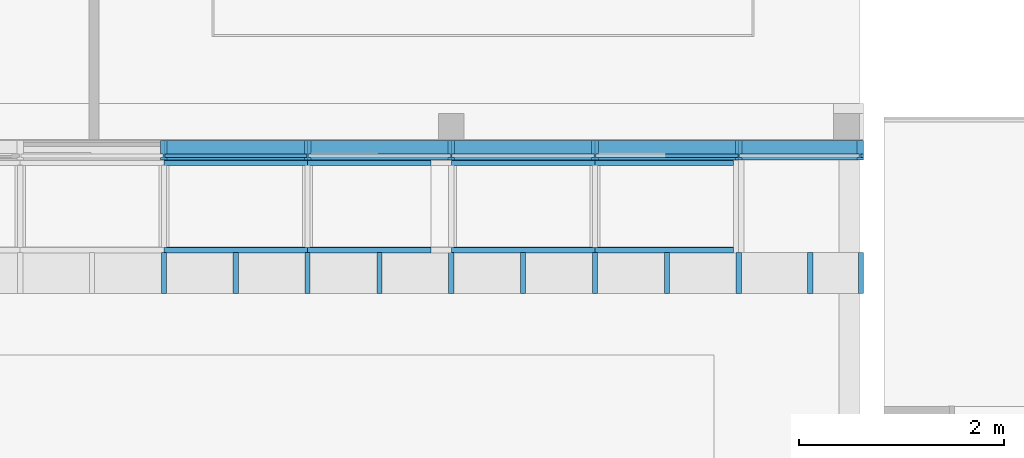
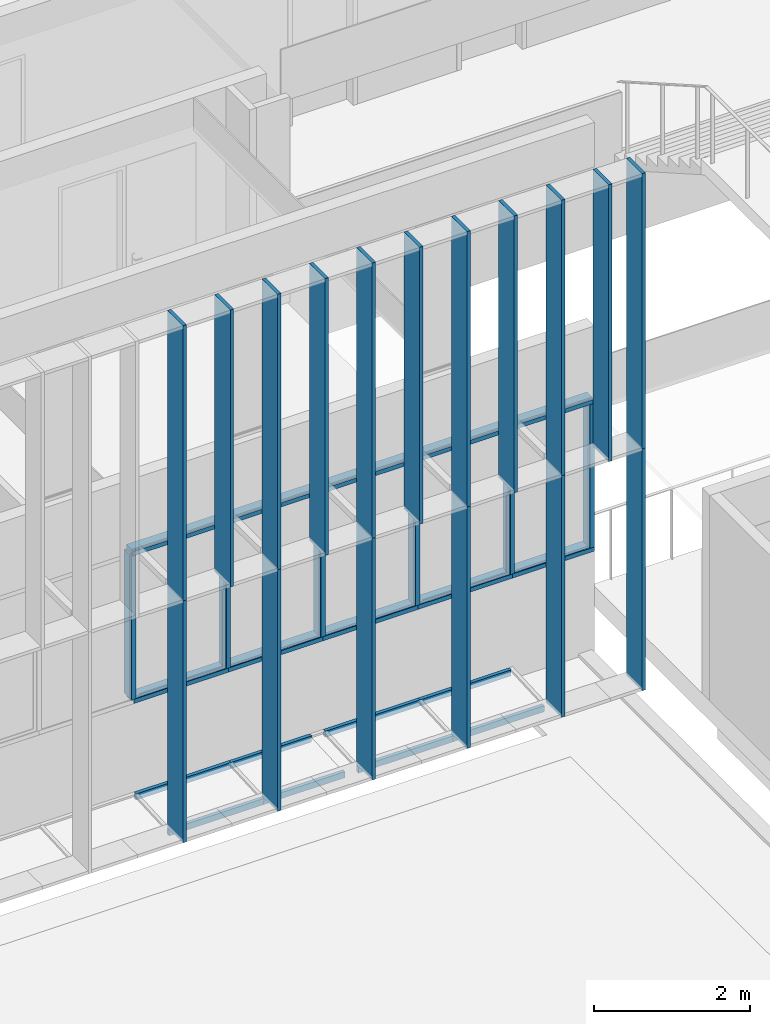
# One storey, part 16 of 106: 41 members, 3 elements without a shape of their own.
"""IFC2X3 building model written with IfcOpenShell, lengths in centimetres."""

from ifc_helpers import new_model, entity, si_unit, converted_unit, derived_unit, direction, frame, origin, origin_2d_with_axis, place, context, subcontext, project, spatial, polyline, rectangle, outline, extrude, source, transform, mapped, material, type_object, type_shapes, element, aggregate, save


model = new_model("IFC2X3")

# Units and contexts
model_context = context("Model", 3, precision=0.001, world=origin(), true_north=direction((6.12303176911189e-17, 1.0)))
body_context = subcontext(model_context, "Body", "Model", "MODEL_VIEW")
ifc_project = project(units=[si_unit("LENGTHUNIT", "METRE", prefix="CENTI"), si_unit("AREAUNIT", "SQUARE_METRE"), si_unit("VOLUMEUNIT", "CUBIC_METRE"), converted_unit("PLANEANGLEUNIT", "DEGREE", entity("IfcRatioMeasure", 0.0174532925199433), si_unit("PLANEANGLEUNIT", "RADIAN"), dimensions=[0, 0, 0, 0, 0, 0, 0]), si_unit("MASSUNIT", "GRAM", prefix="KILO"), derived_unit("MASSDENSITYUNIT", [(si_unit("MASSUNIT", "GRAM", prefix="KILO"), 1), (si_unit("LENGTHUNIT", "METRE"), -3)]), si_unit("TIMEUNIT", "SECOND"), si_unit("FREQUENCYUNIT", "HERTZ"), si_unit("THERMODYNAMICTEMPERATUREUNIT", "DEGREE_CELSIUS"), derived_unit("THERMALTRANSMITTANCEUNIT", [(si_unit("MASSUNIT", "GRAM", prefix="KILO"), 1), (si_unit("THERMODYNAMICTEMPERATUREUNIT", "KELVIN"), -1), (si_unit("TIMEUNIT", "SECOND"), -3)]), derived_unit("VOLUMETRICFLOWRATEUNIT", [(si_unit("LENGTHUNIT", "METRE"), 3), (si_unit("TIMEUNIT", "SECOND"), -1)]), si_unit("ELECTRICCURRENTUNIT", "AMPERE"), si_unit("ELECTRICVOLTAGEUNIT", "VOLT"), si_unit("POWERUNIT", "WATT"), si_unit("FORCEUNIT", "NEWTON", prefix="KILO"), si_unit("ILLUMINANCEUNIT", "LUX"), si_unit("LUMINOUSFLUXUNIT", "LUMEN"), si_unit("LUMINOUSINTENSITYUNIT", "CANDELA"), derived_unit("USERDEFINED", [(si_unit("MASSUNIT", "GRAM", prefix="KILO"), -1), (si_unit("LENGTHUNIT", "METRE"), -2), (si_unit("TIMEUNIT", "SECOND"), 3), (si_unit("LUMINOUSFLUXUNIT", "LUMEN"), 1)]), derived_unit("LINEARVELOCITYUNIT", [(si_unit("LENGTHUNIT", "METRE"), 1), (si_unit("TIMEUNIT", "SECOND"), -1)]), si_unit("PRESSUREUNIT", "PASCAL"), derived_unit("USERDEFINED", [(si_unit("LENGTHUNIT", "METRE"), -2), (si_unit("MASSUNIT", "GRAM", prefix="KILO"), 1), (si_unit("TIMEUNIT", "SECOND"), -2)])], contexts=[model_context])

# Site, building, storey
site_placement = place(None, frame((-2781.94577612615, 7442.24238424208, 0.0)))
site = spatial("IfcSite", under=ifc_project, at=site_placement, Name="Default", CompositionType="ELEMENT")
building_placement = place(site_placement, origin())
building = spatial("IfcBuilding", under=site, at=building_placement, CompositionType="ELEMENT")
storey_placement = place(building_placement, frame((0.0, 0.0, 422.0)))
storey = spatial("IfcBuildingStorey", under=building, at=storey_placement, Name="Toiture - Cuisine", CompositionType="ELEMENT", Elevation=421.999999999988)

# Roof, members
curtain_wall_type_1 = type_object("IfcCurtainWallType", Name="Vitres inclinées:Toit en verre 1 m x 2 m", PredefinedType="NOTDEFINED")
roof_placement = place(building_placement, origin())
roof = element("IfcRoof", 1, at=roof_placement, inside=storey, type_object=curtain_wall_type_1, Name="Vitres inclinées:Toit en verre 1 m x 2 m", ObjectType="Vitres inclinées:Toit en verre 1 m x 2 m", ShapeType="NOTDEFINED")
ifc_material_1 = material(Name="Plastique, blanc opaque")
member_type_1 = type_object("IfcMemberType", Name="100 x 50mm", PredefinedType="MEMBER")
shared_shape_1 = source(origin(), body_context, "Body", "SweptSolid", [
    extrude(rectangle(XDim=10.0, YDim=5.0, at=origin_2d_with_axis()), frame((-2.5, 0.0, -135.0), z_axis=(0.0, 0.0, 1.0), x_axis=(0.0, -1.0, 0.0)), (0.0, 0.0, 1.0), 135.0),
])
type_shapes(member_type_1, [shared_shape_1])
member_1_placement = place(building_placement, frame((-4914.49987763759, -2040.34071342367, 357.99314767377), z_axis=(1.0, 0.0, 0.0), x_axis=(0.0, -0.998629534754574, -0.0523359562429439)))
member_1 = element("IfcMember", 2, at=member_1_placement, type_object=member_type_1, material=ifc_material_1, Name="Meneau rectangulaire:100 x 50mm", ObjectType="Meneau rectangulaire:100 x 50mm", context=body_context, shape_type="MappedRepresentation", body=[
    mapped(shared_shape_1, transform((0.0, 0.0, 0.0), scale=1.0)),
])
member_type_2 = type_object("IfcMemberType", Name="100 x 50mm", PredefinedType="MEMBER")
shared_shape_2 = source(origin(), body_context, "Body", "SweptSolid", [
    extrude(rectangle(XDim=10.0, YDim=5.0, at=origin_2d_with_axis()), frame((-2.5, 0.0, -140.0), z_axis=(0.0, 0.0, 1.0), x_axis=(0.0, -1.0, 0.0)), (0.0, 0.0, 1.0), 140.0),
])
type_shapes(member_type_2, [shared_shape_2])
member_2_placement = place(building_placement, frame((-5469.50004166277, -1950.34071342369, 362.709847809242), z_axis=(-1.0, 0.0, 0.0), x_axis=(0.0, 0.998629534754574, 0.0523359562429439)))
member_2 = element("IfcMember", 3, at=member_2_placement, type_object=member_type_2, material=ifc_material_1, Name="Meneau rectangulaire:100 x 50mm", ObjectType="Meneau rectangulaire:100 x 50mm", context=body_context, shape_type="MappedRepresentation", body=[
    mapped(shared_shape_2, transform((0.0, 0.0, 0.0), scale=1.0)),
])
member_3_placement = place(building_placement, frame((-5189.49987763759, -1950.34071342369, 362.709847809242), z_axis=(-1.0, 0.0, 0.0), x_axis=(0.0, 0.998629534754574, 0.0523359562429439)))
member_3 = element("IfcMember", 4, at=member_3_placement, type_object=member_type_2, material=ifc_material_1, Name="Meneau rectangulaire:100 x 50mm", ObjectType="Meneau rectangulaire:100 x 50mm", context=body_context, shape_type="MappedRepresentation", body=[
    mapped(shared_shape_2, transform((0.0, 0.0, 0.0), scale=1.0)),
])
member_type_3 = type_object("IfcMemberType", Name="100 x 50mm", PredefinedType="MEMBER")
shared_shape_3 = source(origin(), body_context, "Body", "SweptSolid", [
    extrude(rectangle(XDim=10.0, YDim=5.0, at=origin_2d_with_axis()), frame((-2.5, 0.0, -140.0), z_axis=(0.0, 0.0, 1.0), x_axis=(0.0, -1.0, 0.0)), (0.0, 0.0, 1.0), 140.0),
])
type_shapes(member_type_3, [shared_shape_3])
member_4_placement = place(building_placement, frame((-5329.50004166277, -2040.34071342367, 357.99314767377), z_axis=(1.0, 0.0, 0.0), x_axis=(0.0, -0.998629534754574, -0.0523359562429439)))
member_4 = element("IfcMember", 5, at=member_4_placement, type_object=member_type_3, material=ifc_material_1, Name="Meneau rectangulaire:100 x 50mm", ObjectType="Meneau rectangulaire:100 x 50mm", context=body_context, shape_type="MappedRepresentation", body=[
    mapped(shared_shape_3, transform((0.0, 0.0, 0.0), scale=1.0)),
])
member_5_placement = place(building_placement, frame((-5049.49987763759, -2040.34071342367, 357.99314767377), z_axis=(1.0, 0.0, 0.0), x_axis=(0.0, -0.998629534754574, -0.0523359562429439)))
member_5 = element("IfcMember", 6, at=member_5_placement, type_object=member_type_3, material=ifc_material_1, Name="Meneau rectangulaire:100 x 50mm", ObjectType="Meneau rectangulaire:100 x 50mm", context=body_context, shape_type="MappedRepresentation", body=[
    mapped(shared_shape_3, transform((0.0, 0.0, 0.0), scale=1.0)),
])
member_type_4 = type_object("IfcMemberType", Name="100 x 50mm", PredefinedType="MEMBER")
shared_shape_4 = source(origin(), body_context, "Body", "SweptSolid", [
    extrude(rectangle(XDim=10.0, YDim=5.0, at=origin_2d_with_axis()), frame((-2.5, 0.0, -120.000164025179), z_axis=(0.0, 0.0, 1.0), x_axis=(0.0, -1.0, 0.0)), (0.0, 0.0, 1.0), 120.000164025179),
])
type_shapes(member_type_4, [shared_shape_4])
member_6_placement = place(building_placement, frame((-5329.50004166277, -1950.34071342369, 362.709847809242), z_axis=(-1.0, 0.0, 0.0), x_axis=(0.0, 0.998629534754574, 0.0523359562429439)))
member_6 = element("IfcMember", 7, at=member_6_placement, type_object=member_type_4, material=ifc_material_1, Name="Meneau rectangulaire:100 x 50mm", ObjectType="Meneau rectangulaire:100 x 50mm", context=body_context, shape_type="MappedRepresentation", body=[
    mapped(shared_shape_4, transform((0.0, 0.0, 0.0), scale=1.0)),
])
member_type_5 = type_object("IfcMemberType", Name="100 x 50mm", PredefinedType="MEMBER")
shared_shape_5 = source(origin(), body_context, "Body", "SweptSolid", [
    extrude(rectangle(XDim=10.0, YDim=5.0, at=origin_2d_with_axis()), frame((-2.5, 0.0, -135.0), z_axis=(0.0, 0.0, 1.0), x_axis=(0.0, -1.0, 0.0)), (0.0, 0.0, 1.0), 135.0),
])
type_shapes(member_type_5, [shared_shape_5])
member_7_placement = place(building_placement, frame((-5049.49987763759, -1950.34071342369, 362.709847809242), z_axis=(-1.0, 0.0, 0.0), x_axis=(0.0, 0.998629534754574, 0.0523359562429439)))
member_7 = element("IfcMember", 8, at=member_7_placement, type_object=member_type_5, material=ifc_material_1, Name="Meneau rectangulaire:100 x 50mm", ObjectType="Meneau rectangulaire:100 x 50mm", context=body_context, shape_type="MappedRepresentation", body=[
    mapped(shared_shape_5, transform((0.0, 0.0, 0.0), scale=1.0)),
])
member_type_6 = type_object("IfcMemberType", Name="100 x 50mm", PredefinedType="MEMBER")
shared_shape_6 = source(origin(), body_context, "Body", "SweptSolid", [
    extrude(rectangle(XDim=10.0, YDim=5.0, at=origin_2d_with_axis()), frame((-2.5, 0.0, -120.000164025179), z_axis=(0.0, 0.0, 1.0), x_axis=(0.0, -1.0, 0.0)), (0.0, 0.0, 1.0), 120.000164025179),
])
type_shapes(member_type_6, [shared_shape_6])
member_8_placement = place(building_placement, frame((-5209.4998776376, -2040.34071342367, 357.99314767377), z_axis=(1.0, 0.0, 0.0), x_axis=(0.0, -0.998629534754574, -0.0523359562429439)))
member_8 = element("IfcMember", 9, at=member_8_placement, type_object=member_type_6, material=ifc_material_1, Name="Meneau rectangulaire:100 x 50mm", ObjectType="Meneau rectangulaire:100 x 50mm", context=body_context, shape_type="MappedRepresentation", body=[
    mapped(shared_shape_6, transform((0.0, 0.0, 0.0), scale=1.0)),
])
aggregate(roof, [member_1, member_2, member_6, member_3, member_7, member_4, member_8, member_5])

# Curtain wall, members
curtain_wall_type_2 = type_object("IfcCurtainWallType", Name="Mur-rideau:07 - mur rideau trame 140 cm", PredefinedType="NOTDEFINED")
curtain_wall_1_placement = place(building_placement, origin())
curtain_wall_1 = element("IfcCurtainWall", 10, at=curtain_wall_1_placement, inside=storey, type_object=curtain_wall_type_2, Name="Mur-rideau:07 - mur rideau trame 140 cm", ObjectType="Mur-rideau:07 - mur rideau trame 140 cm")
ifc_material_2 = material(Name="Aluminium")
member_type_7 = type_object("IfcMemberType", Name="150 x 25mm Détails", PredefinedType="MEMBER")
shared_shape_7 = source(origin(), body_context, "Body", "SweptSolid", [
    extrude(outline(polyline([(-5.6666666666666, -3.24999999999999), (-3.66666666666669, -3.24999999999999), (-3.66666666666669, -0.868749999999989), (-0.166666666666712, -0.868749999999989), (-0.166666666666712, -3.25000000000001), (13.3333333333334, -3.25000000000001), (13.3333333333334, 3.24999999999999), (-0.16666666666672, 3.24999999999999), (-0.16666666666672, 0.868749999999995), (-3.66666666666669, 0.868749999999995), (-3.66666666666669, 3.25), (-5.6666666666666, 3.25), (-5.6666666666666, -3.24999999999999)])), frame((-3.24999999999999, -1.96666666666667, -140.0), z_axis=(0.0, 0.0, 1.0), x_axis=(0.0, -1.0, 0.0)), (0.0, 0.0, 1.0), 140.000000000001),
])
type_shapes(member_type_7, [shared_shape_7])
member_9_placement = place(building_placement, frame((-5329.49987763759, -1946.27903364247, 743.0), z_axis=(1.0, 0.0, 0.0), x_axis=(0.0, 0.0, 1.0)))
member_9 = element("IfcMember", 11, at=member_9_placement, type_object=member_type_7, material=ifc_material_2, Name="Meneau rectangulaire:150 x 25mm Détails", ObjectType="Meneau rectangulaire:150 x 25mm Détails", context=body_context, shape_type="MappedRepresentation", body=[
    mapped(shared_shape_7, transform((0.0, 0.0, 0.0), scale=1.0)),
])
member_10_placement = place(building_placement, frame((-5189.49987763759, -1946.27903364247, 743.0), z_axis=(1.0, 0.0, 0.0), x_axis=(0.0, 0.0, 1.0)))
member_10 = element("IfcMember", 12, at=member_10_placement, type_object=member_type_7, material=ifc_material_2, Name="Meneau rectangulaire:150 x 25mm Détails", ObjectType="Meneau rectangulaire:150 x 25mm Détails", context=body_context, shape_type="MappedRepresentation", body=[
    mapped(shared_shape_7, transform((0.0, 0.0, 0.0), scale=1.0)),
])
member_11_placement = place(building_placement, frame((-5049.49987763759, -1946.27903364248, 743.0), z_axis=(1.0, 0.0, 0.0), x_axis=(0.0, 0.0, 1.0)))
member_11 = element("IfcMember", 13, at=member_11_placement, type_object=member_type_7, material=ifc_material_2, Name="Meneau rectangulaire:150 x 25mm Détails", ObjectType="Meneau rectangulaire:150 x 25mm Détails", context=body_context, shape_type="MappedRepresentation", body=[
    mapped(shared_shape_7, transform((0.0, 0.0, 0.0), scale=1.0)),
])
member_12_placement = place(building_placement, frame((-4909.49987763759, -1946.27903364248, 743.0), z_axis=(1.0, 0.0, 0.0), x_axis=(0.0, 0.0, 1.0)))
member_12 = element("IfcMember", 14, at=member_12_placement, type_object=member_type_7, material=ifc_material_2, Name="Meneau rectangulaire:150 x 25mm Détails", ObjectType="Meneau rectangulaire:150 x 25mm Détails", context=body_context, shape_type="MappedRepresentation", body=[
    mapped(shared_shape_7, transform((0.0, 0.0, 0.0), scale=1.0)),
])
member_type_8 = type_object("IfcMemberType", Name="150 x 25mm Détails", PredefinedType="MEMBER")
shared_shape_8 = source(origin(), body_context, "Body", "SweptSolid", [
    extrude(outline(polyline([(-5.66666666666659, -3.25), (-3.66666666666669, -3.25), (-3.66666666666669, -0.868749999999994), (-0.166666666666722, -0.868749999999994), (-0.166666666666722, -3.25000000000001), (13.3333333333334, -3.24999999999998), (13.3333333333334, 3.25000000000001), (-0.166666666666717, 3.25000000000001), (-0.166666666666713, 0.868749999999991), (-3.66666666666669, 0.868749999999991), (-3.66666666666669, 3.24999999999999), (-5.66666666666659, 3.24999999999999), (-5.66666666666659, -3.25)])), frame((-3.24999999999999, -1.96666666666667, -140.0), z_axis=(0.0, 0.0, 1.0), x_axis=(0.0, -1.0, 0.0)), (0.0, 0.0, 1.0), 140.000000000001),
])
type_shapes(member_type_8, [shared_shape_8])
member_13_placement = place(building_placement, frame((-5469.49987763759, -1946.27903364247, 505.5), z_axis=(-1.0, 0.0, 0.0), x_axis=(0.0, 0.0, -1.0)))
member_13 = element("IfcMember", 15, at=member_13_placement, type_object=member_type_8, material=ifc_material_2, Name="Meneau rectangulaire:150 x 25mm Détails", ObjectType="Meneau rectangulaire:150 x 25mm Détails", context=body_context, shape_type="MappedRepresentation", body=[
    mapped(shared_shape_8, transform((0.0, 0.0, 0.0), scale=1.0)),
])
member_14_placement = place(building_placement, frame((-5329.49987763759, -1946.27903364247, 505.5), z_axis=(-1.0, 0.0, 0.0), x_axis=(0.0, 0.0, -1.0)))
member_14 = element("IfcMember", 16, at=member_14_placement, type_object=member_type_8, material=ifc_material_2, Name="Meneau rectangulaire:150 x 25mm Détails", ObjectType="Meneau rectangulaire:150 x 25mm Détails", context=body_context, shape_type="MappedRepresentation", body=[
    mapped(shared_shape_8, transform((0.0, 0.0, 0.0), scale=1.0)),
])
member_15_placement = place(building_placement, frame((-5189.49987763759, -1946.27903364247, 505.5), z_axis=(-1.0, 0.0, 0.0), x_axis=(0.0, 0.0, -1.0)))
member_15 = element("IfcMember", 17, at=member_15_placement, type_object=member_type_8, material=ifc_material_2, Name="Meneau rectangulaire:150 x 25mm Détails", ObjectType="Meneau rectangulaire:150 x 25mm Détails", context=body_context, shape_type="MappedRepresentation", body=[
    mapped(shared_shape_8, transform((0.0, 0.0, 0.0), scale=1.0)),
])
member_16_placement = place(building_placement, frame((-5049.49987763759, -1946.27903364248, 505.5), z_axis=(-1.0, 0.0, 0.0), x_axis=(0.0, 0.0, -1.0)))
member_16 = element("IfcMember", 18, at=member_16_placement, type_object=member_type_8, material=ifc_material_2, Name="Meneau rectangulaire:150 x 25mm Détails", ObjectType="Meneau rectangulaire:150 x 25mm Détails", context=body_context, shape_type="MappedRepresentation", body=[
    mapped(shared_shape_8, transform((0.0, 0.0, 0.0), scale=1.0)),
])
member_type_9 = type_object("IfcMemberType", Name="150 x 25mm Détails", PredefinedType="MEMBER")
shared_shape_9 = source(origin(), body_context, "Body", "SweptSolid", [
    extrude(outline(polyline([(-5.6666666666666, -3.24999999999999), (-3.66666666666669, -3.24999999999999), (-3.66666666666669, -0.868749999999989), (-0.166666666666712, -0.868749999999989), (-0.166666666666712, -3.25000000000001), (13.3333333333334, -3.25000000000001), (13.3333333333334, 3.24999999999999), (-0.16666666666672, 3.24999999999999), (-0.16666666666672, 0.868749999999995), (-3.66666666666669, 0.868749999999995), (-3.66666666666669, 3.25), (-5.6666666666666, 3.25), (-5.6666666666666, -3.24999999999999)])), frame((-3.24999999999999, -1.96666666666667, -224.5), z_axis=(0.0, 0.0, 1.0), x_axis=(0.0, -1.0, 0.0)), (0.0, 0.0, 1.0), 224.5),
])
type_shapes(member_type_9, [shared_shape_9])
member_17_placement = place(building_placement, frame((-4787.99987760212, -1946.27903364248, 512.0), z_axis=(0.0, 0.0, -1.0), x_axis=(1.0, 0.0, 0.0)))
member_17 = element("IfcMember", 19, at=member_17_placement, type_object=member_type_9, material=ifc_material_2, Name="Meneau rectangulaire:150 x 25mm Détails", ObjectType="Meneau rectangulaire:150 x 25mm Détails", context=body_context, shape_type="MappedRepresentation", body=[
    mapped(shared_shape_9, transform((0.0, 0.0, 0.0), scale=1.0)),
])
member_type_10 = type_object("IfcMemberType", Name="150 x 25mm Détails", PredefinedType="MEMBER")
shared_shape_10 = source(origin(), body_context, "Body", "SweptSolid", [
    extrude(outline(polyline([(-5.6666666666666, -3.24999999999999), (-3.66666666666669, -3.24999999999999), (-3.66666666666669, -0.86874999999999), (-0.166666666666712, -0.86874999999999), (-0.166666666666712, -3.25000000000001), (13.3333333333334, -3.25000000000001), (13.3333333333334, 3.24999999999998), (-0.16666666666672, 3.24999999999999), (-0.16666666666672, 0.868749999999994), (-3.66666666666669, 0.868749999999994), (-3.66666666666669, 3.25), (-5.6666666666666, 3.25), (-5.6666666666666, -3.24999999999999)])), frame((0.0, -1.96666666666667, -224.5), z_axis=(0.0, 0.0, 1.0), x_axis=(0.0, -1.0, 0.0)), (0.0, 0.0, 1.0), 224.5),
])
type_shapes(member_type_10, [shared_shape_10])
member_18_placement = place(building_placement, frame((-5469.49987763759, -1946.27903364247, 512.0), z_axis=(0.0, 0.0, -1.0), x_axis=(1.0, 0.0, 0.0)))
member_18 = element("IfcMember", 20, at=member_18_placement, type_object=member_type_10, material=ifc_material_2, Name="Meneau rectangulaire:150 x 25mm Détails", ObjectType="Meneau rectangulaire:150 x 25mm Détails", context=body_context, shape_type="MappedRepresentation", body=[
    mapped(shared_shape_10, transform((0.0, 0.0, 0.0), scale=1.0)),
])
member_19_placement = place(building_placement, frame((-5329.49987763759, -1946.27903364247, 512.0), z_axis=(0.0, 0.0, -1.0), x_axis=(1.0, 0.0, 0.0)))
member_19 = element("IfcMember", 21, at=member_19_placement, type_object=member_type_10, material=ifc_material_2, Name="Meneau rectangulaire:150 x 25mm Détails", ObjectType="Meneau rectangulaire:150 x 25mm Détails", context=body_context, shape_type="MappedRepresentation", body=[
    mapped(shared_shape_10, transform((0.0, 0.0, 0.0), scale=1.0)),
])
member_20_placement = place(building_placement, frame((-5189.49987763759, -1946.27903364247, 512.0), z_axis=(0.0, 0.0, -1.0), x_axis=(1.0, 0.0, 0.0)))
member_20 = element("IfcMember", 22, at=member_20_placement, type_object=member_type_10, material=ifc_material_2, Name="Meneau rectangulaire:150 x 25mm Détails", ObjectType="Meneau rectangulaire:150 x 25mm Détails", context=body_context, shape_type="MappedRepresentation", body=[
    mapped(shared_shape_10, transform((0.0, 0.0, 0.0), scale=1.0)),
])
member_21_placement = place(building_placement, frame((-5049.49987763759, -1946.27903364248, 512.0), z_axis=(0.0, 0.0, -1.0), x_axis=(1.0, 0.0, 0.0)))
member_21 = element("IfcMember", 23, at=member_21_placement, type_object=member_type_10, material=ifc_material_2, Name="Meneau rectangulaire:150 x 25mm Détails", ObjectType="Meneau rectangulaire:150 x 25mm Détails", context=body_context, shape_type="MappedRepresentation", body=[
    mapped(shared_shape_10, transform((0.0, 0.0, 0.0), scale=1.0)),
])
member_22_placement = place(building_placement, frame((-4909.49987763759, -1946.27903364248, 512.0), z_axis=(0.0, 0.0, -1.0), x_axis=(1.0, 0.0, 0.0)))
member_22 = element("IfcMember", 24, at=member_22_placement, type_object=member_type_10, material=ifc_material_2, Name="Meneau rectangulaire:150 x 25mm Détails", ObjectType="Meneau rectangulaire:150 x 25mm Détails", context=body_context, shape_type="MappedRepresentation", body=[
    mapped(shared_shape_10, transform((0.0, 0.0, 0.0), scale=1.0)),
])
member_type_11 = type_object("IfcMemberType", Name="150 x 25mm Détails", PredefinedType="MEMBER")
shared_shape_11 = source(origin(), body_context, "Body", "SweptSolid", [
    extrude(outline(polyline([(-5.66666666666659, -3.25), (-3.66666666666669, -3.25), (-3.66666666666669, -0.868749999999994), (-0.166666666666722, -0.868749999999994), (-0.166666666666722, -3.25000000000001), (13.3333333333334, -3.24999999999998), (13.3333333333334, 3.25000000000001), (-0.166666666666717, 3.25000000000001), (-0.166666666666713, 0.868749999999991), (-3.66666666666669, 0.868749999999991), (-3.66666666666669, 3.24999999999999), (-5.66666666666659, 3.24999999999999), (-5.66666666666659, -3.25)])), frame((-3.24999999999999, -1.96666666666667, -121.500000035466), z_axis=(0.0, 0.0, 1.0), x_axis=(0.0, -1.0, 0.0)), (0.0, 0.0, 1.0), 121.500000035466),
])
type_shapes(member_type_11, [shared_shape_11])
member_23_placement = place(building_placement, frame((-4909.49987763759, -1946.27903364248, 505.5), z_axis=(-1.0, 0.0, 0.0), x_axis=(0.0, 0.0, -1.0)))
member_23 = element("IfcMember", 25, at=member_23_placement, type_object=member_type_11, material=ifc_material_2, Name="Meneau rectangulaire:150 x 25mm Détails", ObjectType="Meneau rectangulaire:150 x 25mm Détails", context=body_context, shape_type="MappedRepresentation", body=[
    mapped(shared_shape_11, transform((0.0, 0.0, 0.0), scale=1.0)),
])
member_type_12 = type_object("IfcMemberType", Name="150 x 25mm Détails", PredefinedType="MEMBER")
shared_shape_12 = source(origin(), body_context, "Body", "SweptSolid", [
    extrude(outline(polyline([(-5.6666666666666, -3.24999999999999), (-3.66666666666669, -3.24999999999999), (-3.66666666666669, -0.868749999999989), (-0.166666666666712, -0.868749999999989), (-0.166666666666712, -3.25000000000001), (13.3333333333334, -3.25000000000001), (13.3333333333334, 3.24999999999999), (-0.16666666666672, 3.24999999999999), (-0.16666666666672, 0.868749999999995), (-3.66666666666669, 0.868749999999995), (-3.66666666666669, 3.25), (-5.6666666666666, 3.25), (-5.6666666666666, -3.24999999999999)])), frame((-3.24999999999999, -1.96666666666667, -121.500000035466), z_axis=(0.0, 0.0, 1.0), x_axis=(0.0, -1.0, 0.0)), (0.0, 0.0, 1.0), 121.500000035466),
])
type_shapes(member_type_12, [shared_shape_12])
member_24_placement = place(building_placement, frame((-4787.99987760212, -1946.27903364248, 743.0), z_axis=(1.0, 0.0, 0.0), x_axis=(0.0, 0.0, 1.0)))
member_24 = element("IfcMember", 26, at=member_24_placement, type_object=member_type_12, material=ifc_material_2, Name="Meneau rectangulaire:150 x 25mm Détails", ObjectType="Meneau rectangulaire:150 x 25mm Détails", context=body_context, shape_type="MappedRepresentation", body=[
    mapped(shared_shape_12, transform((0.0, 0.0, 0.0), scale=1.0)),
])
aggregate(curtain_wall_1, [member_9, member_10, member_11, member_12, member_13, member_14, member_15, member_16, member_23, member_17, member_18, member_19, member_20, member_21, member_22, member_24])

curtain_wall_type_3 = type_object("IfcCurtainWallType", Name="Mur-rideau:Epines - 400x30mm", PredefinedType="NOTDEFINED")
curtain_wall_2_placement = place(building_placement, origin())
curtain_wall_2 = element("IfcCurtainWall", 27, at=curtain_wall_2_placement, inside=storey, type_object=curtain_wall_type_3, Name="Mur-rideau:Epines - 400x30mm", ObjectType="Mur-rideau:Epines - 400x30mm")
member_type_13 = type_object("IfcMemberType", Name="Epine sud (400x50 mm)", PredefinedType="MEMBER")
shared_shape_13 = source(origin(), body_context, "Body", "SweptSolid", [
    extrude(rectangle(XDim=40.0, YDim=5.0, at=origin_2d_with_axis()), frame((0.0, 0.0, -377.950708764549), z_axis=(0.0, 0.0, 1.0), x_axis=(0.0, -1.0, 0.0)), (0.0, 0.0, 1.0), 377.950708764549),
])
type_shapes(member_type_13, [shared_shape_13])
member_25_placement = place(building_placement, frame((-5469.49987763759, -2060.07903364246, 367.449291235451), z_axis=(0.0, 0.0, -1.0), x_axis=(1.0, 0.0, 0.0)))
member_25 = element("IfcMember", 28, at=member_25_placement, type_object=member_type_13, material=ifc_material_2, Name="Meneau rectangulaire:Epine sud (400x50 mm)", ObjectType="Meneau rectangulaire:Epine sud (400x50 mm)", context=body_context, shape_type="MappedRepresentation", body=[
    mapped(shared_shape_13, transform((0.0, 0.0, 0.0), scale=1.0)),
])
member_26_placement = place(building_placement, frame((-5329.49987763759, -2060.07903364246, 367.449291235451), z_axis=(0.0, 0.0, -1.0), x_axis=(1.0, 0.0, 0.0)))
member_26 = element("IfcMember", 29, at=member_26_placement, type_object=member_type_13, material=ifc_material_2, Name="Meneau rectangulaire:Epine sud (400x50 mm)", ObjectType="Meneau rectangulaire:Epine sud (400x50 mm)", context=body_context, shape_type="MappedRepresentation", body=[
    mapped(shared_shape_13, transform((0.0, 0.0, 0.0), scale=1.0)),
])
member_27_placement = place(building_placement, frame((-5189.49987763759, -2060.07903364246, 367.449291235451), z_axis=(0.0, 0.0, -1.0), x_axis=(1.0, 0.0, 0.0)))
member_27 = element("IfcMember", 30, at=member_27_placement, type_object=member_type_13, material=ifc_material_2, Name="Meneau rectangulaire:Epine sud (400x50 mm)", ObjectType="Meneau rectangulaire:Epine sud (400x50 mm)", context=body_context, shape_type="MappedRepresentation", body=[
    mapped(shared_shape_13, transform((0.0, 0.0, 0.0), scale=1.0)),
])
member_28_placement = place(building_placement, frame((-5049.49987763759, -2060.07903364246, 367.449291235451), z_axis=(0.0, 0.0, -1.0), x_axis=(1.0, 0.0, 0.0)))
member_28 = element("IfcMember", 31, at=member_28_placement, type_object=member_type_13, material=ifc_material_2, Name="Meneau rectangulaire:Epine sud (400x50 mm)", ObjectType="Meneau rectangulaire:Epine sud (400x50 mm)", context=body_context, shape_type="MappedRepresentation", body=[
    mapped(shared_shape_13, transform((0.0, 0.0, 0.0), scale=1.0)),
])
member_29_placement = place(building_placement, frame((-4909.49987763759, -2060.07903364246, 367.449291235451), z_axis=(0.0, 0.0, -1.0), x_axis=(1.0, 0.0, 0.0)))
member_29 = element("IfcMember", 32, at=member_29_placement, type_object=member_type_13, material=ifc_material_2, Name="Meneau rectangulaire:Epine sud (400x50 mm)", ObjectType="Meneau rectangulaire:Epine sud (400x50 mm)", context=body_context, shape_type="MappedRepresentation", body=[
    mapped(shared_shape_13, transform((0.0, 0.0, 0.0), scale=1.0)),
])
member_type_14 = type_object("IfcMemberType", Name="Epine sud (400x50 mm)", PredefinedType="MEMBER")
shared_shape_14 = source(origin(), body_context, "Body", "SweptSolid", [
    extrude(rectangle(XDim=40.0, YDim=5.0, at=origin_2d_with_axis()), frame((0.0, 0.0, -430.600000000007), z_axis=(0.0, 0.0, 1.0), x_axis=(0.0, -1.0, 0.0)), (0.0, 0.0, 1.0), 430.600000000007),
])
type_shapes(member_type_14, [shared_shape_14])
member_30_placement = place(building_placement, frame((-5469.49987763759, -2060.07903364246, 745.4), z_axis=(0.0, 0.0, -1.0), x_axis=(1.0, 0.0, 0.0)))
member_30 = element("IfcMember", 33, at=member_30_placement, type_object=member_type_14, material=ifc_material_2, Name="Meneau rectangulaire:Epine sud (400x50 mm)", ObjectType="Meneau rectangulaire:Epine sud (400x50 mm)", context=body_context, shape_type="MappedRepresentation", body=[
    mapped(shared_shape_14, transform((0.0, 0.0, 0.0), scale=1.0)),
])
member_31_placement = place(building_placement, frame((-5329.49987763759, -2060.07903364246, 745.4), z_axis=(0.0, 0.0, -1.0), x_axis=(1.0, 0.0, 0.0)))
member_31 = element("IfcMember", 34, at=member_31_placement, type_object=member_type_14, material=ifc_material_2, Name="Meneau rectangulaire:Epine sud (400x50 mm)", ObjectType="Meneau rectangulaire:Epine sud (400x50 mm)", context=body_context, shape_type="MappedRepresentation", body=[
    mapped(shared_shape_14, transform((0.0, 0.0, 0.0), scale=1.0)),
])
member_32_placement = place(building_placement, frame((-5189.49987763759, -2060.07903364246, 745.4), z_axis=(0.0, 0.0, -1.0), x_axis=(1.0, 0.0, 0.0)))
member_32 = element("IfcMember", 35, at=member_32_placement, type_object=member_type_14, material=ifc_material_2, Name="Meneau rectangulaire:Epine sud (400x50 mm)", ObjectType="Meneau rectangulaire:Epine sud (400x50 mm)", context=body_context, shape_type="MappedRepresentation", body=[
    mapped(shared_shape_14, transform((0.0, 0.0, 0.0), scale=1.0)),
])
member_33_placement = place(building_placement, frame((-5049.49987763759, -2060.07903364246, 745.4), z_axis=(0.0, 0.0, -1.0), x_axis=(1.0, 0.0, 0.0)))
member_33 = element("IfcMember", 36, at=member_33_placement, type_object=member_type_14, material=ifc_material_2, Name="Meneau rectangulaire:Epine sud (400x50 mm)", ObjectType="Meneau rectangulaire:Epine sud (400x50 mm)", context=body_context, shape_type="MappedRepresentation", body=[
    mapped(shared_shape_14, transform((0.0, 0.0, 0.0), scale=1.0)),
])
member_34_placement = place(building_placement, frame((-4909.49987763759, -2060.07903364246, 745.4), z_axis=(0.0, 0.0, -1.0), x_axis=(1.0, 0.0, 0.0)))
member_34 = element("IfcMember", 37, at=member_34_placement, type_object=member_type_14, material=ifc_material_2, Name="Meneau rectangulaire:Epine sud (400x50 mm)", ObjectType="Meneau rectangulaire:Epine sud (400x50 mm)", context=body_context, shape_type="MappedRepresentation", body=[
    mapped(shared_shape_14, transform((0.0, 0.0, 0.0), scale=1.0)),
])
member_type_15 = type_object("IfcMemberType", Name="Epine sud (400x50 mm)", PredefinedType="MEMBER")
shared_shape_15 = source(origin(), body_context, "Body", "SweptSolid", [
    extrude(rectangle(XDim=40.0, YDim=5.0, at=origin_2d_with_axis()), frame((-2.5, 0.0, -377.950708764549), z_axis=(0.0, 0.0, 1.0), x_axis=(0.0, -1.0, 0.0)), (0.0, 0.0, 1.0), 377.950708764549),
])
type_shapes(member_type_15, [shared_shape_15])
member_35_placement = place(building_placement, frame((-4787.99987760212, -2060.07903364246, 367.449291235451), z_axis=(0.0, 0.0, -1.0), x_axis=(1.0, 0.0, 0.0)))
member_35 = element("IfcMember", 38, at=member_35_placement, type_object=member_type_15, material=ifc_material_2, Name="Meneau rectangulaire:Epine sud (400x50 mm)", ObjectType="Meneau rectangulaire:Epine sud (400x50 mm)", context=body_context, shape_type="MappedRepresentation", body=[
    mapped(shared_shape_15, transform((0.0, 0.0, 0.0), scale=1.0)),
])
member_type_16 = type_object("IfcMemberType", Name="Epine sud (400x50 mm)", PredefinedType="MEMBER")
shared_shape_16 = source(origin(), body_context, "Body", "SweptSolid", [
    extrude(rectangle(XDim=40.0, YDim=5.0, at=origin_2d_with_axis()), frame((-2.5, 0.0, -430.600000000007), z_axis=(0.0, 0.0, 1.0), x_axis=(0.0, -1.0, 0.0)), (0.0, 0.0, 1.0), 430.600000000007),
])
type_shapes(member_type_16, [shared_shape_16])
member_36_placement = place(building_placement, frame((-4787.99987760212, -2060.07903364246, 745.4), z_axis=(0.0, 0.0, -1.0), x_axis=(1.0, 0.0, 0.0)))
member_36 = element("IfcMember", 39, at=member_36_placement, type_object=member_type_16, material=ifc_material_2, Name="Meneau rectangulaire:Epine sud (400x50 mm)", ObjectType="Meneau rectangulaire:Epine sud (400x50 mm)", context=body_context, shape_type="MappedRepresentation", body=[
    mapped(shared_shape_16, transform((0.0, 0.0, 0.0), scale=1.0)),
])
member_type_17 = type_object("IfcMemberType", Name="Epine sud (400x50 mm)", PredefinedType="MEMBER")
shared_shape_17 = source(origin(), body_context, "Body", "SweptSolid", [
    extrude(rectangle(XDim=40.0, YDim=5.0, at=origin_2d_with_axis()), frame((0.0, 0.0, -433.100000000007), z_axis=(0.0, 0.0, 1.0), x_axis=(0.0, -1.0, 0.0)), (0.0, 0.0, 1.0), 433.100000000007),
])
type_shapes(member_type_17, [shared_shape_17])
member_37_placement = place(building_placement, frame((-5399.49987763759, -2060.07903364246, 742.9), z_axis=(0.0, 0.0, -1.0), x_axis=(1.0, 0.0, 0.0)))
member_37 = element("IfcMember", 40, at=member_37_placement, type_object=member_type_17, material=ifc_material_2, Name="Meneau rectangulaire:Epine sud (400x50 mm)", ObjectType="Meneau rectangulaire:Epine sud (400x50 mm)", context=body_context, shape_type="MappedRepresentation", body=[
    mapped(shared_shape_17, transform((0.0, 0.0, 0.0), scale=1.0)),
])
member_38_placement = place(building_placement, frame((-5259.49987763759, -2060.07903364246, 742.9), z_axis=(0.0, 0.0, -1.0), x_axis=(1.0, 0.0, 0.0)))
member_38 = element("IfcMember", 41, at=member_38_placement, type_object=member_type_17, material=ifc_material_2, Name="Meneau rectangulaire:Epine sud (400x50 mm)", ObjectType="Meneau rectangulaire:Epine sud (400x50 mm)", context=body_context, shape_type="MappedRepresentation", body=[
    mapped(shared_shape_17, transform((0.0, 0.0, 0.0), scale=1.0)),
])
member_39_placement = place(building_placement, frame((-5119.49987763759, -2060.07903364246, 742.9), z_axis=(0.0, 0.0, -1.0), x_axis=(1.0, 0.0, 0.0)))
member_39 = element("IfcMember", 42, at=member_39_placement, type_object=member_type_17, material=ifc_material_2, Name="Meneau rectangulaire:Epine sud (400x50 mm)", ObjectType="Meneau rectangulaire:Epine sud (400x50 mm)", context=body_context, shape_type="MappedRepresentation", body=[
    mapped(shared_shape_17, transform((0.0, 0.0, 0.0), scale=1.0)),
])
member_40_placement = place(building_placement, frame((-4979.49987763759, -2060.07903364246, 742.9), z_axis=(0.0, 0.0, -1.0), x_axis=(1.0, 0.0, 0.0)))
member_40 = element("IfcMember", 43, at=member_40_placement, type_object=member_type_17, material=ifc_material_2, Name="Meneau rectangulaire:Epine sud (400x50 mm)", ObjectType="Meneau rectangulaire:Epine sud (400x50 mm)", context=body_context, shape_type="MappedRepresentation", body=[
    mapped(shared_shape_17, transform((0.0, 0.0, 0.0), scale=1.0)),
])
member_41_placement = place(building_placement, frame((-4839.74988025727, -2060.07903364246, 742.9), z_axis=(0.0, 0.0, -1.0), x_axis=(1.0, 0.0, 0.0)))
member_41 = element("IfcMember", 44, at=member_41_placement, type_object=member_type_17, material=ifc_material_2, Name="Meneau rectangulaire:Epine sud (400x50 mm)", ObjectType="Meneau rectangulaire:Epine sud (400x50 mm)", context=body_context, shape_type="MappedRepresentation", body=[
    mapped(shared_shape_17, transform((0.0, 0.0, 0.0), scale=1.0)),
])
aggregate(curtain_wall_2, [member_30, member_25, member_31, member_26, member_32, member_27, member_33, member_28, member_34, member_29, member_35, member_36, member_37, member_38, member_39, member_40, member_41])

save(model, "model.ifc")
